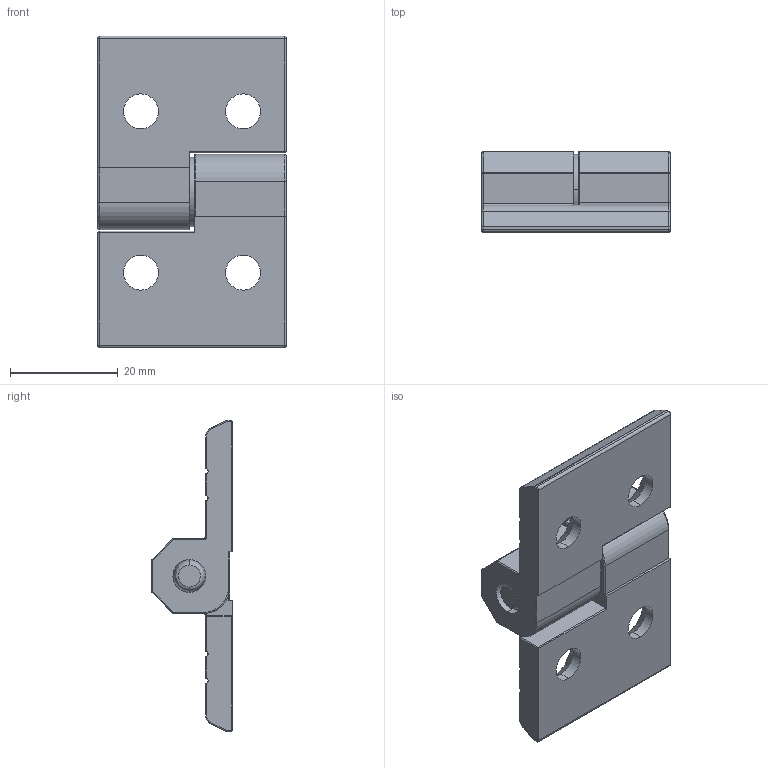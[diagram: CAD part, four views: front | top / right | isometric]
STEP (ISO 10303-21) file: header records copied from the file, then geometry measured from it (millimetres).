
FILE_DESCRIPTION (( 'STEP AP203' ), '1' );
FILE_NAME ('DH30D-R+L.STEP', '2021-08-20T01:09:16', ( '' ), ( '' ), 'SwSTEP 2.0', 'SolidWorks 2017', '' );
FILE_SCHEMA (( 'CONFIG_CONTROL_DESIGN' ));
Length unit declared in the file: millimetre
Products named in the file (5): B035-35-30_1; B035-35-30-4_1; B035-35-30-3_1; B035-35-30-1_1; DH30D-R+L
Assembly tree (4 placements, depth 2):
  DH30D-R+L
    B035-35-30_1
    B035-35-30-4_1
    B035-35-30-3_1
    B035-35-30-1_1
Bounding box: 35 x 15 x 58 mm (x, y, z)
Volume: 12545.6 mm3; surface area: 7715.4 mm2
Topology: 4 solids, 4 shells, 185 faces, 451 edges, 260 vertices
Faces by surface type: cylinder 97, plane 42, bspline 36, cone 10
Entity records: 6846 total; most frequent: CARTESIAN_POINT 2168, DIRECTION 884, ORIENTED_EDGE 882, EDGE_CURVE 441, AXIS2_PLACEMENT_3D 340, VERTEX_POINT 260, LINE 204, VECTOR 204
